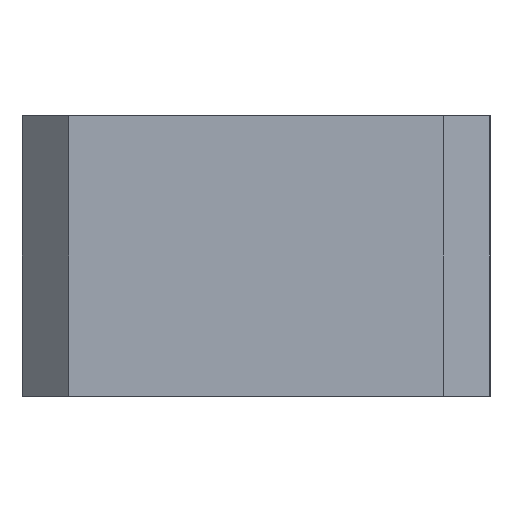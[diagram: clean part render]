
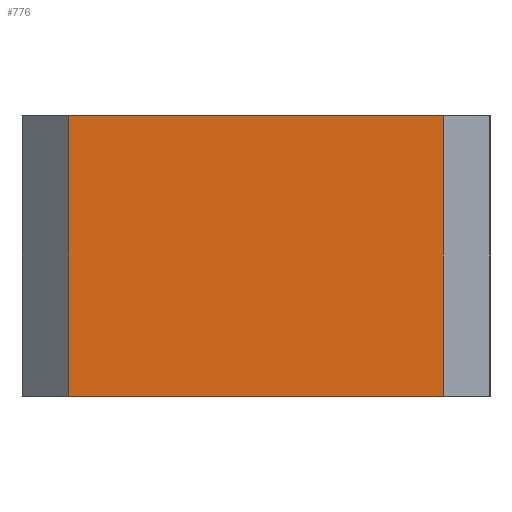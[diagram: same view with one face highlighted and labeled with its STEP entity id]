
A CAD part, left-side view. The second image highlights one B-rep face of the part: STEP entity #776.
In plain terms, the highlighted planar face has unit normal (-1, 0, 0).
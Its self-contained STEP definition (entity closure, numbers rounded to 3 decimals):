
#32 = VERTEX_POINT ( 'NONE', #406 ) ;
#66 = PLANE ( 'NONE',  #252 ) ;
#70 = DIRECTION ( 'NONE',  ( 0., 0., -1. ) ) ;
#71 = VECTOR ( 'NONE', #390, 1000. ) ;
#126 = CARTESIAN_POINT ( 'NONE',  ( -85., -10., 12. ) ) ;
#141 = EDGE_CURVE ( 'NONE', #773, #32, #431, .T. ) ;
#164 = EDGE_CURVE ( 'NONE', #486, #741, #497, .T. ) ;
#167 = LINE ( 'NONE', #126, #413 ) ;
#173 = CARTESIAN_POINT ( 'NONE',  ( -85., -8., 0. ) ) ;
#182 = EDGE_LOOP ( 'NONE', ( #552, #318, #315, #547 ) ) ;
#189 = LINE ( 'NONE', #521, #71 ) ;
#231 = EDGE_CURVE ( 'NONE', #741, #773, #189, .T. ) ;
#252 = AXIS2_PLACEMENT_3D ( 'NONE', #809, #312, #548 ) ;
#305 = VECTOR ( 'NONE', #70, 1000. ) ;
#312 = DIRECTION ( 'NONE',  ( 1., 0., 0. ) ) ;
#315 = ORIENTED_EDGE ( 'NONE', *, *, #231, .T. ) ;
#318 = ORIENTED_EDGE ( 'NONE', *, *, #164, .T. ) ;
#366 = DIRECTION ( 'NONE',  ( 0., 0., 1. ) ) ;
#390 = DIRECTION ( 'NONE',  ( 0., -1., 0. ) ) ;
#406 = CARTESIAN_POINT ( 'NONE',  ( -85., -8., 12. ) ) ;
#413 = VECTOR ( 'NONE', #672, 1000. ) ;
#431 = LINE ( 'NONE', #501, #447 ) ;
#447 = VECTOR ( 'NONE', #366, 1000. ) ;
#484 = FACE_OUTER_BOUND ( 'NONE', #182, .T. ) ;
#486 = VERTEX_POINT ( 'NONE', #594 ) ;
#497 = LINE ( 'NONE', #610, #305 ) ;
#501 = CARTESIAN_POINT ( 'NONE',  ( -85., -8., 12. ) ) ;
#521 = CARTESIAN_POINT ( 'NONE',  ( -85., -10., 0. ) ) ;
#547 = ORIENTED_EDGE ( 'NONE', *, *, #141, .T. ) ;
#548 = DIRECTION ( 'NONE',  ( 0., 0., -1. ) ) ;
#552 = ORIENTED_EDGE ( 'NONE', *, *, #732, .F. ) ;
#594 = CARTESIAN_POINT ( 'NONE',  ( -85., 8., 12. ) ) ;
#610 = CARTESIAN_POINT ( 'NONE',  ( -85., 8., 12. ) ) ;
#665 = CARTESIAN_POINT ( 'NONE',  ( -85., 8., 0. ) ) ;
#672 = DIRECTION ( 'NONE',  ( 0., -1., 0. ) ) ;
#732 = EDGE_CURVE ( 'NONE', #486, #32, #167, .T. ) ;
#741 = VERTEX_POINT ( 'NONE', #665 ) ;
#773 = VERTEX_POINT ( 'NONE', #173 ) ;
#776 = ADVANCED_FACE ( 'NONE', ( #484 ), #66, .F. ) ;
#809 = CARTESIAN_POINT ( 'NONE',  ( -85., -10., 12. ) ) ;
